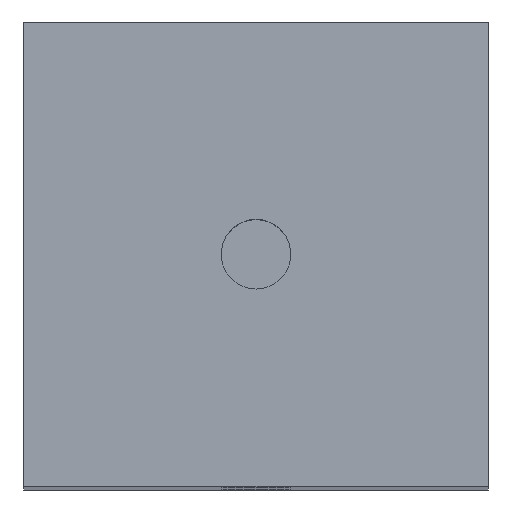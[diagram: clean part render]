
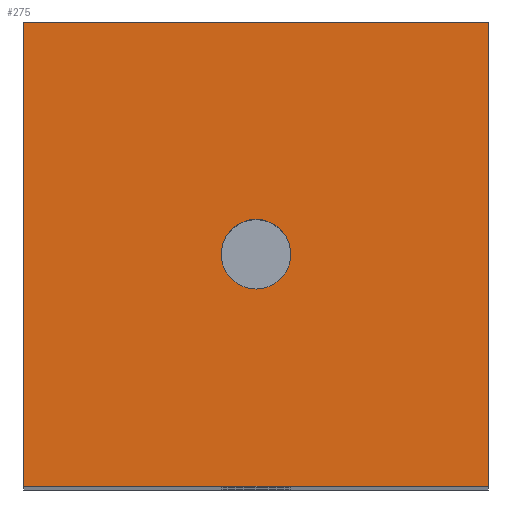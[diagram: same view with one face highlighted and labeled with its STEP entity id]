
A CAD part, top view. The second image highlights one B-rep face of the part: STEP entity #275.
In plain terms, the highlighted planar face has unit normal (0, 0, 1).
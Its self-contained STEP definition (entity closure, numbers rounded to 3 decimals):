
#24 = VERTEX_POINT('',#25);
#25 = CARTESIAN_POINT('',(-126.,-88.5,88.5));
#32 = PLANE('',#33);
#33 = AXIS2_PLACEMENT_3D('',#34,#35,#36);
#34 = CARTESIAN_POINT('',(-126.,-88.5,1.5));
#35 = DIRECTION('',(1.,0.,0.));
#36 = DIRECTION('',(0.,0.,1.));
#44 = PLANE('',#45);
#45 = AXIS2_PLACEMENT_3D('',#46,#47,#48);
#46 = CARTESIAN_POINT('',(-126.,-88.5,1.5));
#47 = DIRECTION('',(0.,1.,0.));
#48 = DIRECTION('',(0.,0.,1.));
#85 = VERTEX_POINT('',#86);
#86 = CARTESIAN_POINT('',(-126.,-68.5,88.5));
#100 = PLANE('',#101);
#101 = AXIS2_PLACEMENT_3D('',#102,#103,#104);
#102 = CARTESIAN_POINT('',(-126.,-68.5,1.5));
#103 = DIRECTION('',(0.,1.,0.));
#104 = DIRECTION('',(0.,0.,1.));
#112 = EDGE_CURVE('',#24,#85,#113,.T.);
#113 = SURFACE_CURVE('',#114,(#118,#125),.PCURVE_S1.);
#114 = LINE('',#115,#116);
#115 = CARTESIAN_POINT('',(-126.,-88.5,88.5));
#116 = VECTOR('',#117,1.);
#117 = DIRECTION('',(0.,1.,0.));
#118 = PCURVE('',#32,#119);
#119 = DEFINITIONAL_REPRESENTATION('',(#120),#124);
#120 = LINE('',#121,#122);
#121 = CARTESIAN_POINT('',(87.,0.));
#122 = VECTOR('',#123,1.);
#123 = DIRECTION('',(0.,-1.));
#124 = ( GEOMETRIC_REPRESENTATION_CONTEXT(2) 
PARAMETRIC_REPRESENTATION_CONTEXT() REPRESENTATION_CONTEXT('2D SPACE',''
  ) );
#125 = PCURVE('',#126,#131);
#126 = PLANE('',#127);
#127 = AXIS2_PLACEMENT_3D('',#128,#129,#130);
#128 = CARTESIAN_POINT('',(-126.,-88.5,88.5));
#129 = DIRECTION('',(0.,0.,1.));
#130 = DIRECTION('',(1.,0.,0.));
#131 = DEFINITIONAL_REPRESENTATION('',(#132),#136);
#132 = LINE('',#133,#134);
#133 = CARTESIAN_POINT('',(0.,0.));
#134 = VECTOR('',#135,1.);
#135 = DIRECTION('',(0.,1.));
#136 = ( GEOMETRIC_REPRESENTATION_CONTEXT(2) 
PARAMETRIC_REPRESENTATION_CONTEXT() REPRESENTATION_CONTEXT('2D SPACE',''
  ) );
#165 = EDGE_CURVE('',#24,#166,#168,.T.);
#166 = VERTEX_POINT('',#167);
#167 = CARTESIAN_POINT('',(-106.,-88.5,88.5));
#168 = SURFACE_CURVE('',#169,(#173,#180),.PCURVE_S1.);
#169 = LINE('',#170,#171);
#170 = CARTESIAN_POINT('',(-126.,-88.5,88.5));
#171 = VECTOR('',#172,1.);
#172 = DIRECTION('',(1.,0.,0.));
#173 = PCURVE('',#44,#174);
#174 = DEFINITIONAL_REPRESENTATION('',(#175),#179);
#175 = LINE('',#176,#177);
#176 = CARTESIAN_POINT('',(87.,0.));
#177 = VECTOR('',#178,1.);
#178 = DIRECTION('',(0.,1.));
#179 = ( GEOMETRIC_REPRESENTATION_CONTEXT(2) 
PARAMETRIC_REPRESENTATION_CONTEXT() REPRESENTATION_CONTEXT('2D SPACE',''
  ) );
#180 = PCURVE('',#126,#181);
#181 = DEFINITIONAL_REPRESENTATION('',(#182),#186);
#182 = LINE('',#183,#184);
#183 = CARTESIAN_POINT('',(0.,0.));
#184 = VECTOR('',#185,1.);
#185 = DIRECTION('',(1.,0.));
#186 = ( GEOMETRIC_REPRESENTATION_CONTEXT(2) 
PARAMETRIC_REPRESENTATION_CONTEXT() REPRESENTATION_CONTEXT('2D SPACE',''
  ) );
#202 = PLANE('',#203);
#203 = AXIS2_PLACEMENT_3D('',#204,#205,#206);
#204 = CARTESIAN_POINT('',(-106.,-88.5,1.5));
#205 = DIRECTION('',(1.,0.,0.));
#206 = DIRECTION('',(0.,0.,1.));
#275 = ADVANCED_FACE('',(#276,#324),#126,.T.);
#276 = FACE_BOUND('',#277,.T.);
#277 = EDGE_LOOP('',(#278,#279,#280,#303));
#278 = ORIENTED_EDGE('',*,*,#112,.F.);
#279 = ORIENTED_EDGE('',*,*,#165,.T.);
#280 = ORIENTED_EDGE('',*,*,#281,.T.);
#281 = EDGE_CURVE('',#166,#282,#284,.T.);
#282 = VERTEX_POINT('',#283);
#283 = CARTESIAN_POINT('',(-106.,-68.5,88.5));
#284 = SURFACE_CURVE('',#285,(#289,#296),.PCURVE_S1.);
#285 = LINE('',#286,#287);
#286 = CARTESIAN_POINT('',(-106.,-88.5,88.5));
#287 = VECTOR('',#288,1.);
#288 = DIRECTION('',(0.,1.,0.));
#289 = PCURVE('',#126,#290);
#290 = DEFINITIONAL_REPRESENTATION('',(#291),#295);
#291 = LINE('',#292,#293);
#292 = CARTESIAN_POINT('',(20.,0.));
#293 = VECTOR('',#294,1.);
#294 = DIRECTION('',(0.,1.));
#295 = ( GEOMETRIC_REPRESENTATION_CONTEXT(2) 
PARAMETRIC_REPRESENTATION_CONTEXT() REPRESENTATION_CONTEXT('2D SPACE',''
  ) );
#296 = PCURVE('',#202,#297);
#297 = DEFINITIONAL_REPRESENTATION('',(#298),#302);
#298 = LINE('',#299,#300);
#299 = CARTESIAN_POINT('',(87.,0.));
#300 = VECTOR('',#301,1.);
#301 = DIRECTION('',(0.,-1.));
#302 = ( GEOMETRIC_REPRESENTATION_CONTEXT(2) 
PARAMETRIC_REPRESENTATION_CONTEXT() REPRESENTATION_CONTEXT('2D SPACE',''
  ) );
#303 = ORIENTED_EDGE('',*,*,#304,.F.);
#304 = EDGE_CURVE('',#85,#282,#305,.T.);
#305 = SURFACE_CURVE('',#306,(#310,#317),.PCURVE_S1.);
#306 = LINE('',#307,#308);
#307 = CARTESIAN_POINT('',(-126.,-68.5,88.5));
#308 = VECTOR('',#309,1.);
#309 = DIRECTION('',(1.,0.,0.));
#310 = PCURVE('',#126,#311);
#311 = DEFINITIONAL_REPRESENTATION('',(#312),#316);
#312 = LINE('',#313,#314);
#313 = CARTESIAN_POINT('',(0.,20.));
#314 = VECTOR('',#315,1.);
#315 = DIRECTION('',(1.,0.));
#316 = ( GEOMETRIC_REPRESENTATION_CONTEXT(2) 
PARAMETRIC_REPRESENTATION_CONTEXT() REPRESENTATION_CONTEXT('2D SPACE',''
  ) );
#317 = PCURVE('',#100,#318);
#318 = DEFINITIONAL_REPRESENTATION('',(#319),#323);
#319 = LINE('',#320,#321);
#320 = CARTESIAN_POINT('',(87.,0.));
#321 = VECTOR('',#322,1.);
#322 = DIRECTION('',(0.,1.));
#323 = ( GEOMETRIC_REPRESENTATION_CONTEXT(2) 
PARAMETRIC_REPRESENTATION_CONTEXT() REPRESENTATION_CONTEXT('2D SPACE',''
  ) );
#324 = FACE_BOUND('',#325,.T.);
#325 = EDGE_LOOP('',(#326));
#326 = ORIENTED_EDGE('',*,*,#327,.T.);
#327 = EDGE_CURVE('',#328,#328,#330,.T.);
#328 = VERTEX_POINT('',#329);
#329 = CARTESIAN_POINT('',(-117.5,-78.5,88.5));
#330 = SURFACE_CURVE('',#331,(#336,#347),.PCURVE_S1.);
#331 = CIRCLE('',#332,1.5);
#332 = AXIS2_PLACEMENT_3D('',#333,#334,#335);
#333 = CARTESIAN_POINT('',(-116.,-78.5,88.5));
#334 = DIRECTION('',(0.,0.,-1.));
#335 = DIRECTION('',(-1.,0.,-0.));
#336 = PCURVE('',#126,#337);
#337 = DEFINITIONAL_REPRESENTATION('',(#338),#346);
#338 = ( BOUNDED_CURVE() B_SPLINE_CURVE(2,(#339,#340,#341,#342,#343,#344
,#345),.UNSPECIFIED.,.T.,.F.) B_SPLINE_CURVE_WITH_KNOTS((1,2,2,2,2,1),(
    -2.094,0.,2.094,4.189,6.283,
8.378),.UNSPECIFIED.) CURVE() GEOMETRIC_REPRESENTATION_ITEM() 
RATIONAL_B_SPLINE_CURVE((1.,0.5,1.,0.5,1.,0.5,1.)) REPRESENTATION_ITEM(
  '') );
#339 = CARTESIAN_POINT('',(8.5,10.));
#340 = CARTESIAN_POINT('',(8.5,12.598));
#341 = CARTESIAN_POINT('',(10.75,11.299));
#342 = CARTESIAN_POINT('',(13.,10.));
#343 = CARTESIAN_POINT('',(10.75,8.701));
#344 = CARTESIAN_POINT('',(8.5,7.402));
#345 = CARTESIAN_POINT('',(8.5,10.));
#346 = ( GEOMETRIC_REPRESENTATION_CONTEXT(2) 
PARAMETRIC_REPRESENTATION_CONTEXT() REPRESENTATION_CONTEXT('2D SPACE',''
  ) );
#347 = PCURVE('',#348,#353);
#348 = CYLINDRICAL_SURFACE('',#349,1.5);
#349 = AXIS2_PLACEMENT_3D('',#350,#351,#352);
#350 = CARTESIAN_POINT('',(-116.,-78.5,88.5));
#351 = DIRECTION('',(0.,0.,-1.));
#352 = DIRECTION('',(-1.,0.,-0.));
#353 = DEFINITIONAL_REPRESENTATION('',(#354),#358);
#354 = LINE('',#355,#356);
#355 = CARTESIAN_POINT('',(0.,0.));
#356 = VECTOR('',#357,1.);
#357 = DIRECTION('',(1.,0.));
#358 = ( GEOMETRIC_REPRESENTATION_CONTEXT(2) 
PARAMETRIC_REPRESENTATION_CONTEXT() REPRESENTATION_CONTEXT('2D SPACE',''
  ) );
